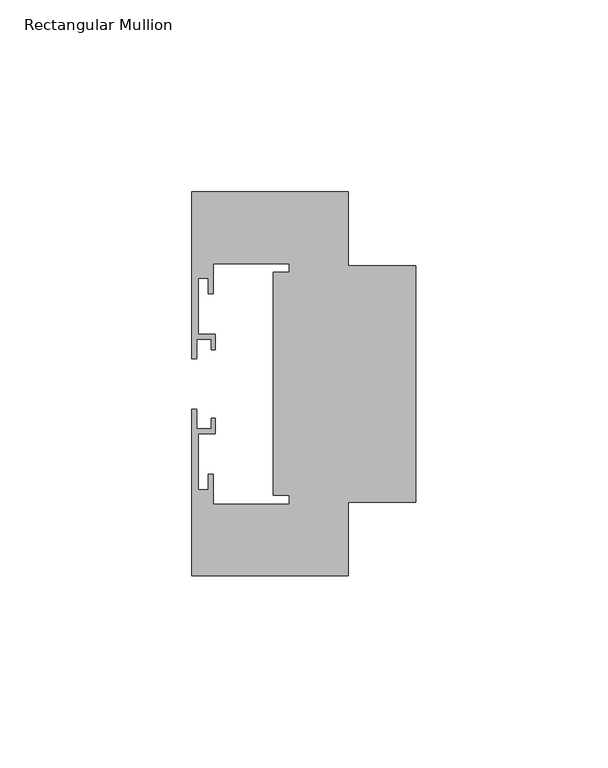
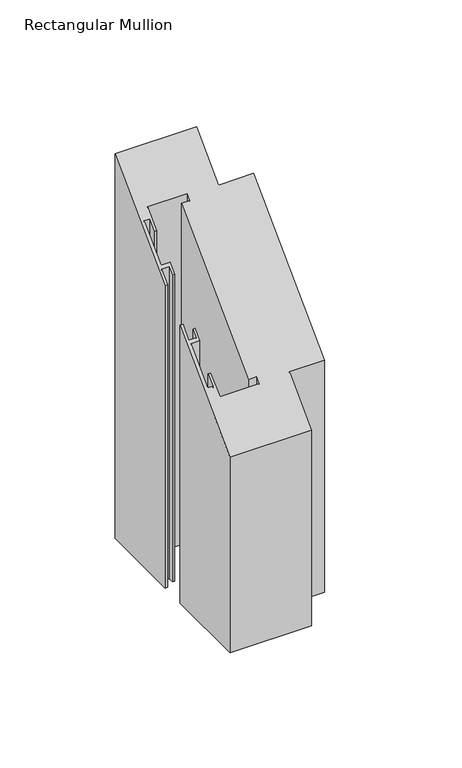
"""IFC4 building model written with IfcOpenShell, lengths in millimetres: member geometry, Rectangular Mullion : Frame-Teknion-OptosLP-Base_Channel."""

from ifc_helpers import new_model, si_unit, origin, place, context, project, spatial, faceted_brep, source, transform, mapped, element, save


def rectangular_mullion_7787aef6(model_context):
    return source(origin(), model_context, "Body", "Brep", [
        faceted_brep([(-17.6080204, 50.0127381, -153.640806), (-17.6080204, 30.8132734, -153.640806), (0.0, 30.8132734, -153.640806), (0.0, -30.8132734, -153.640806), (-17.6080204, -30.8132734, -153.640806), (-17.6080204, -50.0127381, -153.640806), (-58.3491472, -50.0127381, -153.640806), (-58.3491472, -6.5559427, -153.640806), (-57.0374251, -6.5559427, -153.640806), (-57.0374251, -11.7067955, -153.640806), (-53.2912811, -11.7067955, -153.640806), (-53.2912811, -8.897378, -153.640806), (-52.2608056, -8.897378, -153.640806), (-52.2608056, -12.9247686, -153.640806), (-56.6631918, -12.9247686, -153.640806), (-56.6631918, -27.5351116, -153.640806), (-54.1342588, -27.5351116, -153.640806), (-54.1342588, -23.5077209, -153.640806), (-52.8232989, -23.5077209, -153.640806), (-52.8232989, -31.3750045, -153.640806), (-33.061341, -31.3750045, -153.640806), (-33.061341, -29.0335692, -153.640806), (-37.1824805, -29.0335692, -153.640806), (-37.1824805, 29.0335692, -153.640806), (-33.061341, 29.0335692, -153.640806), (-33.061341, 31.3750045, -153.640806), (-52.8232989, 31.3750045, -153.640806), (-52.8232989, 23.5077209, -153.640806), (-54.1342588, 23.5077209, -153.640806), (-54.1342588, 27.5351116, -153.640806), (-56.6631918, 27.5351116, -153.640806), (-56.6631918, 12.9247686, -153.640806), (-52.2608056, 12.9247686, -153.640806), (-52.2608056, 8.897378, -153.640806), (-53.2912811, 8.897378, -153.640806), (-53.2912811, 11.7067955, -153.640806), (-57.0374251, 11.7067955, -153.640806), (-57.0374251, 6.5559427, -153.640806), (-58.3491472, 6.5559427, -153.640806), (-58.3491472, 50.0127381, -153.640806), (-58.3491472, 50.0127381, 50.0127381), (-17.6080204, 50.0127381, 50.0127381), (-58.3491472, 6.5559427, 6.5559427), (-57.0374251, 6.5559427, 6.5559427), (-57.0374251, 11.7067955, 11.7067955), (-53.2912811, 11.7067955, 11.7067955), (-53.2912811, 8.897378, 8.897378), (-52.2608056, 8.897378, 8.897378), (-52.2608056, 12.9247686, 12.9247686), (-56.6631918, 12.9247686, 12.9247686), (-56.6631918, 27.5351116, 27.5351116), (-54.1342588, 27.5351116, 27.5351116), (-54.1342588, 23.5077209, 23.5077209), (-52.8232989, 23.5077209, 23.5077209), (-52.8232989, 31.3750045, 31.3750045), (-33.061341, 31.3750045, 31.3750045), (-33.061341, 29.0335692, 29.0335692), (-37.1824805, 29.0335692, 29.0335692), (-37.1824805, -29.0335692, -29.0335692), (-33.061341, -29.0335692, -29.0335692), (-33.061341, -31.3750045, -31.3750045), (-52.8232989, -31.3750045, -31.3750045), (-52.8232989, -23.5077209, -23.5077209), (-54.1342588, -23.5077209, -23.5077209), (-54.1342588, -27.5351116, -27.5351116), (-56.6631918, -27.5351116, -27.5351116), (-56.6631918, -12.9247686, -12.9247686), (-52.2608056, -12.9247686, -12.9247686), (-52.2608056, -8.897378, -8.897378), (-53.2912811, -8.897378, -8.897378), (-53.2912811, -11.7067955, -11.7067955), (-57.0374251, -11.7067955, -11.7067955), (-57.0374251, -6.5559427, -6.5559427), (-58.3491472, -6.5559427, -6.5559427), (-58.3491472, -50.0127381, -50.0127381), (-17.6080204, -50.0127381, -50.0127381), (-17.6080204, -30.8132734, -30.8132734), (0.0, -30.8132734, -30.8132734), (0.0, 30.8132734, 30.8132734), (-17.6080204, 30.8132734, 30.8132734)], [[[0, 1, 2, 3, 4, 5, 6, 7, 8, 9, 10, 11, 12, 13, 14, 15, 16, 17, 18, 19, 20, 21, 22, 23, 24, 25, 26, 27, 28, 29, 30, 31, 32, 33, 34, 35, 36, 37, 38, 39]], [[40, 41, 0, 39]], [[42, 40, 39, 38]], [[43, 42, 38, 37]], [[44, 43, 37, 36]], [[45, 44, 36, 35]], [[46, 45, 35, 34]], [[47, 46, 34, 33]], [[48, 47, 33, 32]], [[49, 48, 32, 31]], [[50, 49, 31, 30]], [[51, 50, 30, 29]], [[52, 51, 29, 28]], [[53, 52, 28, 27]], [[54, 53, 27, 26]], [[55, 54, 26, 25]], [[56, 55, 25, 24]], [[57, 56, 24, 23]], [[58, 57, 23, 22]], [[59, 58, 22, 21]], [[60, 59, 21, 20]], [[61, 60, 20, 19]], [[62, 61, 19, 18]], [[63, 62, 18, 17]], [[64, 63, 17, 16]], [[65, 64, 16, 15]], [[66, 65, 15, 14]], [[67, 66, 14, 13]], [[68, 67, 13, 12]], [[69, 68, 12, 11]], [[70, 69, 11, 10]], [[71, 70, 10, 9]], [[72, 71, 9, 8]], [[73, 72, 8, 7]], [[74, 73, 7, 6]], [[75, 74, 6, 5]], [[76, 75, 5, 4]], [[77, 76, 4, 3]], [[78, 77, 3, 2]], [[79, 78, 2, 1]], [[41, 79, 1, 0]], [[41, 40, 42, 43, 44, 45, 46, 47, 48, 49, 50, 51, 52, 53, 54, 55, 56, 57, 58, 59, 60, 61, 62, 63, 64, 65, 66, 67, 68, 69, 70, 71, 72, 73, 74, 75, 76, 77, 78, 79]]]),
    ])


if __name__ == "__main__":
    model = new_model("IFC4")
    model_context = context("Model", 3, world=origin())
    ifc_project = project(units=[si_unit("LENGTHUNIT", "METRE", prefix="MILLI")], contexts=[model_context])
    site = spatial("IfcSite", under=ifc_project)
    building = spatial("IfcBuilding", under=site)
    placement = place(None, origin())
    rectangular_mullion_shape = rectangular_mullion_7787aef6(model_context)
    element("IfcMember", 1, ObjectType="Rectangular Mullion : Frame-Teknion-OptosLP-Base_Channel", at=placement, inside=building, context=model_context, shape_type="MappedRepresentation", body=[
        mapped(rectangular_mullion_shape, transform((0.0, 0.0, 0.0), x_axis=(1.0, 0.0, 0.0), y_axis=(0.0, 1.0, 0.0), z_axis=(0.0, 0.0, 1.0))),
    ])
    save(model, "model.ifc")
